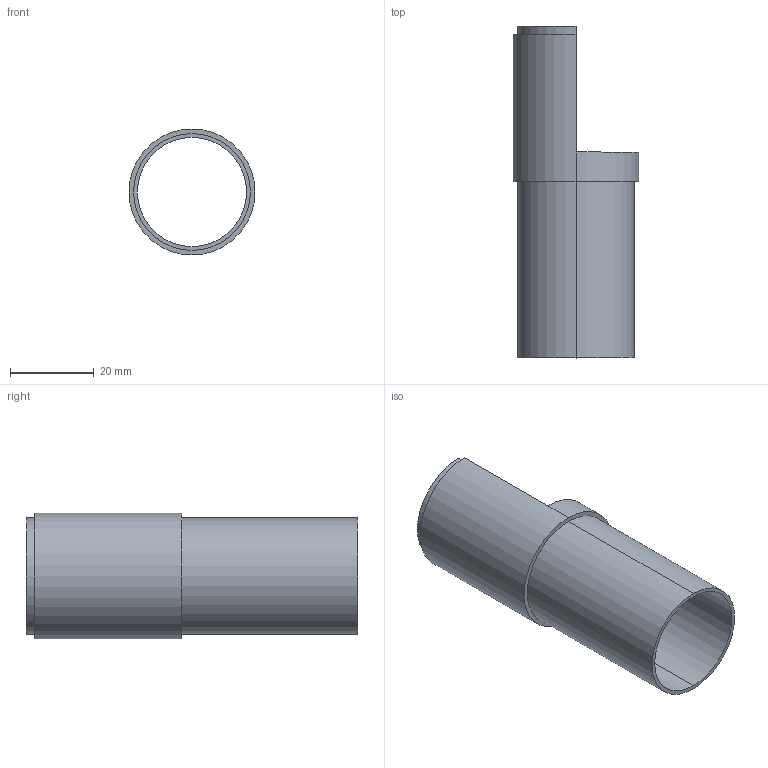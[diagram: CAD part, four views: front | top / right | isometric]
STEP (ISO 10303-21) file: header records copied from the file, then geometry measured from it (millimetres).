
FILE_DESCRIPTION (( 'STEP AP214' ), '1' );
FILE_NAME ('G_7_2.STEP', '2016-02-27T15:38:06', ( '' ), ( '' ), 'SwSTEP 2.0', 'SolidWorks 2012', '' );
FILE_SCHEMA (( 'AUTOMOTIVE_DESIGN' ));
Length unit declared in the file: millimetre
Products named in the file (1): G_7_2
Bounding box: 30 x 79 x 30 mm (x, y, z)
Volume: 6965 mm3; surface area: 11429.7 mm2
Topology: 1 solids, 1 shells, 14 faces, 32 edges, 20 vertices
Faces by surface type: cylinder 7, plane 7
Entity records: 436 total; most frequent: DIRECTION 76, CARTESIAN_POINT 67, ORIENTED_EDGE 64, EDGE_CURVE 32, AXIS2_PLACEMENT_3D 29, VERTEX_POINT 20, LINE 18, VECTOR 18
